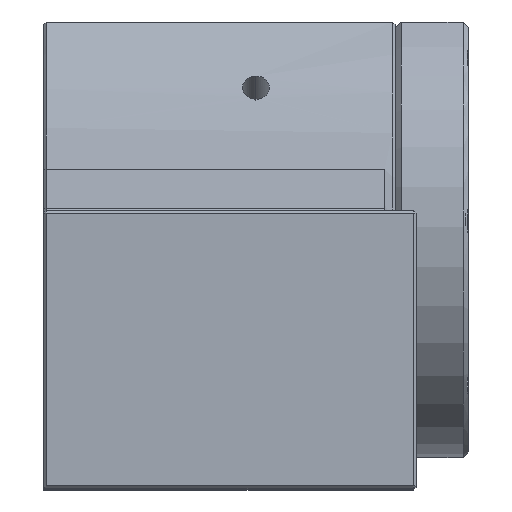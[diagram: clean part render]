
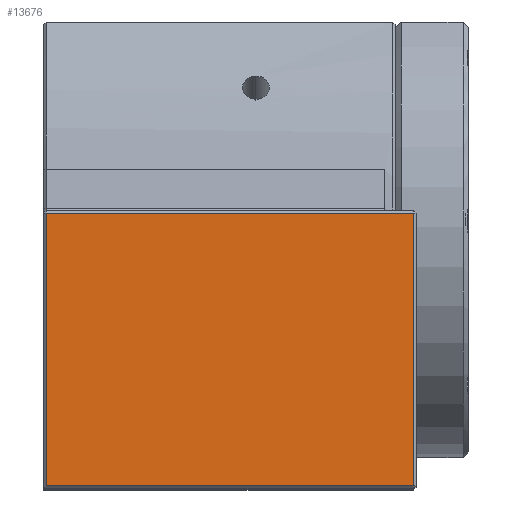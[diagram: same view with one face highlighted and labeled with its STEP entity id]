
A CAD part, top view. The second image highlights one B-rep face of the part: STEP entity #13676.
In plain terms, the highlighted planar face has unit normal (0, 0, 1).
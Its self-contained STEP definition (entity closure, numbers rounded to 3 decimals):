
#12856 = DIRECTION ( 'NONE',  ( 1., 0., 0. ) ) ;
#12857 = VECTOR ( 'NONE', #12856, 1000. ) ;
#12858 = CARTESIAN_POINT ( 'NONE',  ( 4., -50.5, 80. ) ) ;
#12859 = LINE ( 'NONE', #12858, #12857 ) ;
#12860 = CARTESIAN_POINT ( 'NONE',  ( 3.5, -50.5, 80. ) ) ;
#12861 = CARTESIAN_POINT ( 'NONE',  ( -66.5, -50.5, 80. ) ) ;
#12863 = DIRECTION ( 'NONE',  ( 0., 1., 0. ) ) ;
#12864 = VECTOR ( 'NONE', #12863, 1000. ) ;
#12865 = CARTESIAN_POINT ( 'NONE',  ( 3.5, 0., 80. ) ) ;
#12866 = LINE ( 'NONE', #12865, #12864 ) ;
#12867 = CARTESIAN_POINT ( 'NONE',  ( 3.5, 1.5, 80. ) ) ;
#12868 = DIRECTION ( 'NONE',  ( -1., 0., 0. ) ) ;
#12869 = VECTOR ( 'NONE', #12868, 1000. ) ;
#12870 = CARTESIAN_POINT ( 'NONE',  ( -67., 1.5, 80. ) ) ;
#12871 = LINE ( 'NONE', #12870, #12869 ) ;
#12892 = DIRECTION ( 'NONE',  ( 1., 0., 0. ) ) ;
#12893 = DIRECTION ( 'NONE',  ( 0., 0., 1. ) ) ;
#12894 = AXIS2_PLACEMENT_3D ( 'NONE', #12895, #12893, #12892 ) ;
#12895 = CARTESIAN_POINT ( 'NONE',  ( -67., 0., 80. ) ) ;
#12896 = PLANE ( 'NONE',  #12894 ) ;
#12897 = FACE_OUTER_BOUND ( 'NONE', #13665, .T. ) ;
#12983 = CARTESIAN_POINT ( 'NONE',  ( -66.5, 1.5, 80. ) ) ;
#13028 = DIRECTION ( 'NONE',  ( 0., -1., 0. ) ) ;
#13029 = VECTOR ( 'NONE', #13028, 1000. ) ;
#13030 = CARTESIAN_POINT ( 'NONE',  ( -66.5, -51., 80. ) ) ;
#13031 = LINE ( 'NONE', #13030, #13029 ) ;
#13656 = EDGE_CURVE ( 'NONE', #13658, #13744, #12871, .T. ) ;
#13657 = ORIENTED_EDGE ( 'NONE', *, *, #13656, .T. ) ;
#13658 = VERTEX_POINT ( 'NONE', #12867 ) ;
#13659 = EDGE_CURVE ( 'NONE', #13662, #13658, #12866, .T. ) ;
#13660 = ORIENTED_EDGE ( 'NONE', *, *, #13659, .T. ) ;
#13661 = VERTEX_POINT ( 'NONE', #12861 ) ;
#13662 = VERTEX_POINT ( 'NONE', #12860 ) ;
#13663 = EDGE_CURVE ( 'NONE', #13661, #13662, #12859, .T. ) ;
#13664 = ORIENTED_EDGE ( 'NONE', *, *, #13663, .T. ) ;
#13665 = EDGE_LOOP ( 'NONE', ( #13664, #13660, #13657, #13748 ) ) ;
#13676 = ADVANCED_FACE ( 'NONE', ( #12897 ), #12896, .T. ) ;
#13744 = VERTEX_POINT ( 'NONE', #12983 ) ;
#13746 = EDGE_CURVE ( 'NONE', #13744, #13661, #13031, .T. ) ;
#13748 = ORIENTED_EDGE ( 'NONE', *, *, #13746, .T. ) ;
